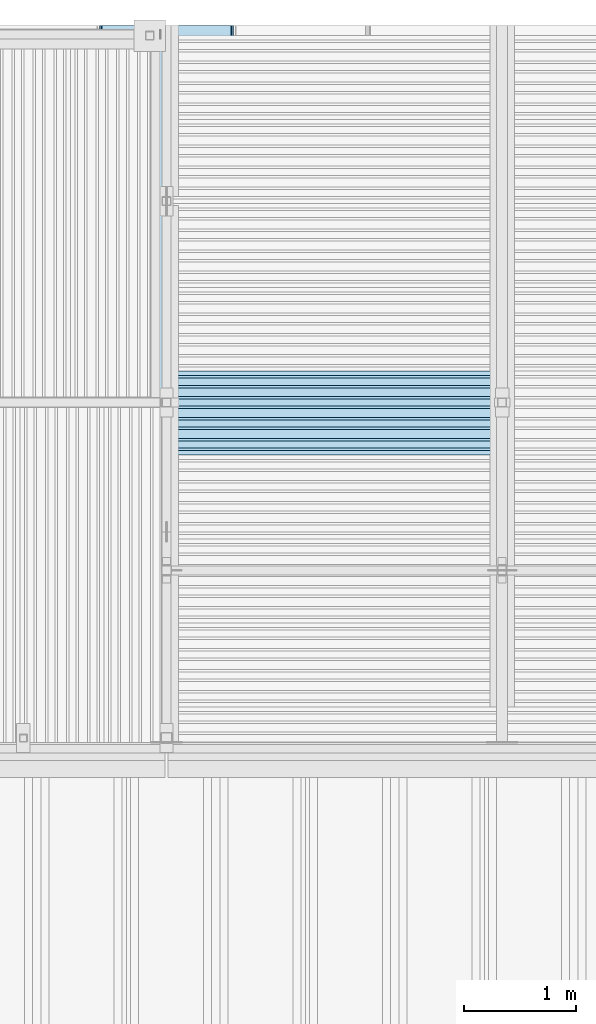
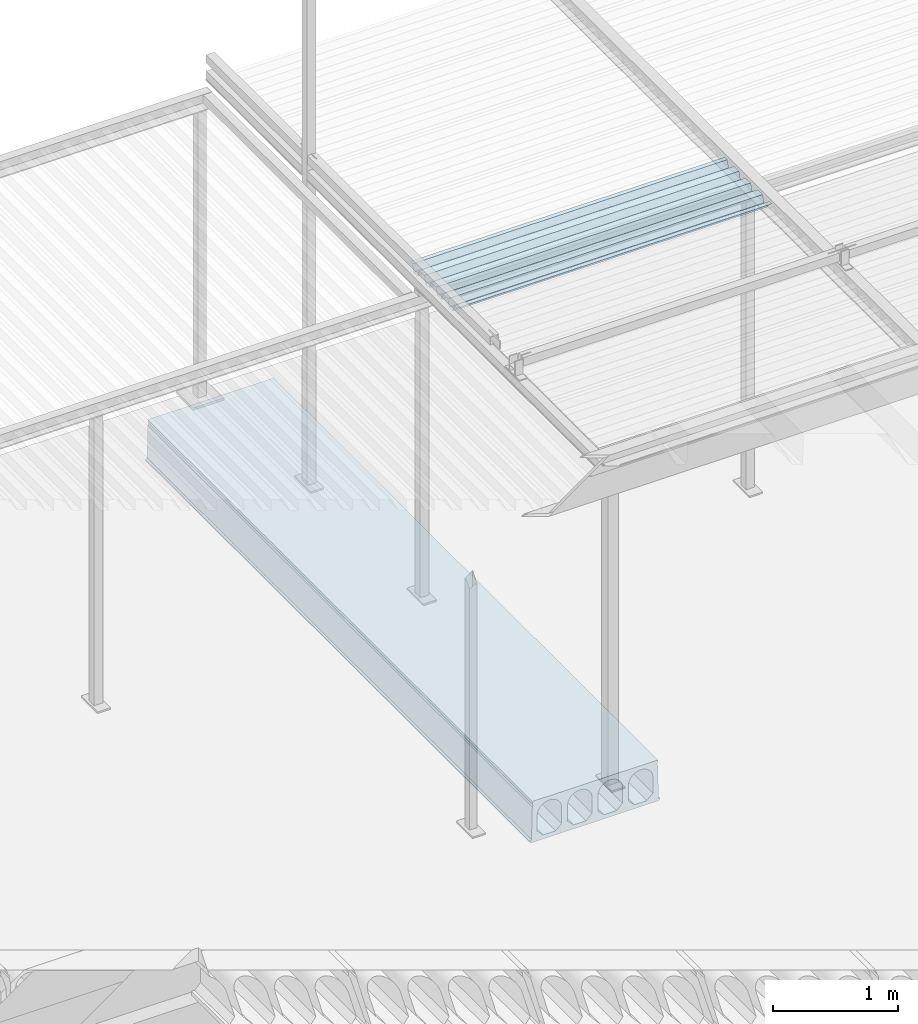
# One storey, part 83 of 98: 2 slabs.
"""IFC2X3 building model written with IfcOpenShell, lengths in millimetres."""

from ifc_helpers import new_model, entity, si_unit, converted_unit, derived_unit, direction, frame, origin_with_axes, place, context, subcontext, project, spatial, faceted_brep, material, type_object, element, save


model = new_model("IFC2X3")

# Units and contexts
model_context = context("Model", 3, precision=0.01, world=frame((0.0, 4.29681676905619e-09, 0.0)), true_north=direction((4.01073788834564e-13, 1.0)))
plan_context = context("Plan", 3, precision=0.01, world=frame((0.0, 4.29681676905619e-09, 0.0)), true_north=direction((4.01073788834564e-13, 1.0)))
body_context = subcontext(model_context, "Body", "Model", "MODEL_VIEW")
ifc_project = project(units=[converted_unit("PLANEANGLEUNIT", "DEGREE", entity("IfcPositiveLengthMeasure", 0.0174532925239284), si_unit("PLANEANGLEUNIT", "RADIAN"), dimensions=[0, 0, 0, 0, 0, 0, 0]), si_unit("AREAUNIT", "SQUARE_METRE"), si_unit("LENGTHUNIT", "METRE", prefix="MILLI"), si_unit("MASSUNIT", "GRAM", prefix="KILO"), si_unit("POWERUNIT", "WATT"), si_unit("PRESSUREUNIT", "PASCAL"), si_unit("FORCEUNIT", "NEWTON", prefix="KILO"), si_unit("ELECTRICCURRENTUNIT", "AMPERE"), si_unit("THERMODYNAMICTEMPERATUREUNIT", "DEGREE_CELSIUS"), si_unit("TIMEUNIT", "SECOND"), si_unit("VOLUMEUNIT", "CUBIC_METRE"), derived_unit("LINEARVELOCITYUNIT", [(si_unit("LENGTHUNIT", "METRE"), 1), (si_unit("TIMEUNIT", "SECOND"), -1)]), derived_unit("VOLUMETRICFLOWRATEUNIT", [(si_unit("VOLUMEUNIT", "CUBIC_METRE"), 1), (si_unit("TIMEUNIT", "SECOND"), -1)]), derived_unit("THERMALTRANSMITTANCEUNIT", [(si_unit("POWERUNIT", "WATT"), 1), (si_unit("THERMODYNAMICTEMPERATUREUNIT", "KELVIN"), -1), (si_unit("AREAUNIT", "SQUARE_METRE"), -1)])], contexts=[model_context, plan_context])

# Site, building, storey
site_placement = place(None, frame((0.0, -4.29681676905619e-09, 0.0), z_axis=(0.0, 0.0, 1.0), x_axis=(1.0, 0.0, 0.0)))
site = spatial("IfcSite", under=ifc_project, at=site_placement, Name="Gardermoen", CompositionType="ELEMENT")
building_placement = place(site_placement, frame((0.0, 4.29681676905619e-09, 0.0), z_axis=(0.0, 0.0, 1.0), x_axis=(1.0, 0.0, 0.0)))
building = spatial("IfcBuilding", under=site, at=building_placement, Name="TS", CompositionType="ELEMENT")
storey_placement = place(building_placement, origin_with_axes())
storey = spatial("IfcBuildingStorey", under=building, at=storey_placement, Name="D", CompositionType="ELEMENT", Elevation=0.0)

# Slabs
slab_type_1 = type_object("IfcSlabType", Name="HD400", PredefinedType="NOTDEFINED")
slab_1_placement = place(storey_placement, frame((519999.999766, 414739.995625, 203600.0), z_axis=(0.0, 0.0, 1.0), x_axis=(0.0, 1.0, 0.0)))
element("IfcSlab", 1, at=slab_1_placement, inside=storey, type_object=slab_type_1, Name="HULLDEKKE", ObjectType="HD400", PredefinedType="FLOOR", context=body_context, shape_type="Brep", body=[
    faceted_brep([(6130.19582840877, 600.0, -190.0), (6130.19582840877, 600.0, -180.0), (0.0, 600.0, -180.0), (0.0, 600.0, -190.0), (6130.19582840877, 585.0, -170.0), (0.0, 585.0, -170.0), (6130.19582840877, 577.5, 145.0), (0.0, 577.5, 145.0), (6130.19582840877, 570.0, 160.0), (0.0, 570.0, 160.0), (6130.19582840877, 577.5, 175.0), (0.0, 577.5, 175.0), (6130.19582840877, 577.5, 200.0), (0.0, 577.5, 200.0), (6130.19582840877, -577.5, 200.0), (0.0, -577.5, 200.0), (6130.19582840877, -577.5, 175.0), (0.0, -577.5, 175.0), (6130.19582840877, -570.0, 160.0), (0.0, -570.0, 160.0), (6130.19582840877, -577.5, 145.0), (0.0, -577.5, 145.0), (6130.19582840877, -585.0, -170.0), (0.0, -585.0, -170.0), (6130.19582840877, -600.0, -180.0), (0.0, -600.0, -180.0), (6130.19582840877, -600.0, -190.0), (0.0, -600.0, -190.0), (6130.19582840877, -583.380004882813, -200.0), (0.0, -583.380004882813, -200.0), (6130.19582840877, 583.380004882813, -200.0), (0.0, 583.380004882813, -200.0), (6130.19582840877, -362.5, -160.0), (6130.19582840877, -477.5, -160.0), (0.0, -477.5, -160.0), (0.0, -362.5, -160.0), (6130.19582840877, -532.5, -105.0), (0.0, -532.5, -105.0), (6130.19582840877, -532.5, 47.5), (0.0, -532.5, 47.5), (6130.19582840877, -532.115755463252, 56.7901763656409), (0.0, -532.115755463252, 56.7901763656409), (6130.19582840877, -530.965646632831, 66.0168914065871), (0.0, -530.965646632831, 66.0168914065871), (6130.19582840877, -529.057529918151, 75.1171173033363), (0.0, -529.057529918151, 75.1171173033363), (6130.19582840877, -526.404439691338, 84.028690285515), (0.0, -526.404439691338, 84.028690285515), (6130.19582840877, -523.024499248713, 92.6907352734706), (0.0, -523.024499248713, 92.6907352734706), (6130.19582840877, -518.940797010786, 101.044081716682), (0.0, -518.940797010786, 101.044081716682), (6130.19582840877, -514.181228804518, 109.031667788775), (0.0, -514.181228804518, 109.031667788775), (6130.19582840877, -508.778307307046, 116.598930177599), (0.0, -508.778307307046, 116.598930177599), (6130.19582840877, -502.768939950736, 123.694176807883), (0.0, -502.768939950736, 123.694176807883), (6130.19582840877, -496.194176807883, 130.268939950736), (0.0, -496.194176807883, 130.268939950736), (6130.19582840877, -489.098930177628, 136.278307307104), (0.0, -489.098930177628, 136.278307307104), (6130.19582840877, -481.531667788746, 141.681228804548), (0.0, -481.531667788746, 141.681228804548), (6130.19582840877, -473.544081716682, 146.440797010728), (0.0, -473.544081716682, 146.440797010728), (6130.19582840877, -465.190735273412, 150.524499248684), (0.0, -465.190735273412, 150.524499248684), (6130.19582840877, -456.528690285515, 153.904439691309), (0.0, -456.528690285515, 153.904439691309), (6130.19582840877, -447.617117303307, 156.55752991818), (0.0, -447.617117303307, 156.55752991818), (6130.19582840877, -438.516891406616, 158.465646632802), (0.0, -438.516891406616, 158.465646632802), (6130.19582840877, -429.290176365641, 159.615755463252), (0.0, -429.290176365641, 159.615755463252), (6130.19582840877, -420.0, 160.0), (0.0, -420.0, 160.0), (6130.19582840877, -410.709823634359, 159.615755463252), (0.0, -410.709823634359, 159.615755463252), (6130.19582840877, -401.483108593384, 158.465646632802), (0.0, -401.483108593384, 158.465646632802), (6130.19582840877, -392.382882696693, 156.55752991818), (0.0, -392.382882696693, 156.55752991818), (6130.19582840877, -383.471309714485, 153.904439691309), (0.0, -383.471309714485, 153.904439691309), (6130.19582840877, -374.809264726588, 150.524499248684), (0.0, -374.809264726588, 150.524499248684), (6130.19582840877, -366.455918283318, 146.440797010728), (0.0, -366.455918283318, 146.440797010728), (6130.19582840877, -358.468332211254, 141.681228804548), (0.0, -358.468332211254, 141.681228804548), (6130.19582840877, -350.901069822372, 136.278307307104), (0.0, -350.901069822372, 136.278307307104), (6130.19582840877, -343.805823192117, 130.268939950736), (0.0, -343.805823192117, 130.268939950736), (6130.19582840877, -337.231060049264, 123.694176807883), (0.0, -337.231060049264, 123.694176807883), (6130.19582840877, -331.221692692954, 116.598930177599), (0.0, -331.221692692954, 116.598930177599), (6130.19582840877, -325.818771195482, 109.031667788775), (0.0, -325.818771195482, 109.031667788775), (6130.19582840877, -321.059202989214, 101.044081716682), (0.0, -321.059202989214, 101.044081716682), (6130.19582840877, -316.975500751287, 92.6907352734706), (0.0, -316.975500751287, 92.6907352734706), (6130.19582840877, -313.595560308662, 84.028690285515), (0.0, -313.595560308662, 84.028690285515), (6130.19582840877, -310.942470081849, 75.1171173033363), (0.0, -310.942470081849, 75.1171173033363), (6130.19582840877, -309.034353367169, 66.0168914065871), (0.0, -309.034353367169, 66.0168914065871), (6130.19582840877, -307.884244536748, 56.7901763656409), (0.0, -307.884244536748, 56.7901763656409), (6130.19582840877, -307.5, 47.5), (0.0, -307.5, 47.5), (6130.19582840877, -307.5, -105.0), (0.0, -307.5, -105.0), (6130.19582840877, -82.5, -160.0), (6130.19582840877, -197.5, -160.0), (0.0, -197.5, -160.0), (0.0, -82.5, -160.0), (6130.19582840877, -252.5, -105.0), (0.0, -252.5, -105.0), (6130.19582840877, -252.5, 47.5), (0.0, -252.5, 47.5), (6130.19582840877, -252.115755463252, 56.7901763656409), (0.0, -252.115755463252, 56.7901763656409), (6130.19582840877, -250.965646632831, 66.0168914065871), (0.0, -250.965646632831, 66.0168914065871), (6130.19582840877, -249.057529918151, 75.1171173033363), (0.0, -249.057529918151, 75.1171173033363), (6130.19582840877, -246.404439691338, 84.028690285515), (0.0, -246.404439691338, 84.028690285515), (6130.19582840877, -243.024499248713, 92.6907352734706), (0.0, -243.024499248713, 92.6907352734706), (6130.19582840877, -238.940797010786, 101.044081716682), (0.0, -238.940797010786, 101.044081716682), (6130.19582840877, -234.181228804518, 109.031667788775), (0.0, -234.181228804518, 109.031667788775), (6130.19582840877, -228.778307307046, 116.598930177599), (0.0, -228.778307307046, 116.598930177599), (6130.19582840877, -222.768939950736, 123.694176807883), (0.0, -222.768939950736, 123.694176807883), (6130.19582840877, -216.194176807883, 130.268939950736), (0.0, -216.194176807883, 130.268939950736), (6130.19582840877, -209.098930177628, 136.278307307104), (0.0, -209.098930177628, 136.278307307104), (6130.19582840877, -201.531667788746, 141.681228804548), (0.0, -201.531667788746, 141.681228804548), (6130.19582840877, -193.544081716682, 146.440797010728), (0.0, -193.544081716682, 146.440797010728), (6130.19582840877, -185.190735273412, 150.524499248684), (0.0, -185.190735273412, 150.524499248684), (6130.19582840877, -176.528690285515, 153.904439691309), (0.0, -176.528690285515, 153.904439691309), (6130.19582840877, -167.617117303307, 156.55752991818), (0.0, -167.617117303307, 156.55752991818), (6130.19582840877, -158.516891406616, 158.465646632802), (0.0, -158.516891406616, 158.465646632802), (6130.19582840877, -149.290176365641, 159.615755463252), (0.0, -149.290176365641, 159.615755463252), (6130.19582840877, -140.0, 160.0), (0.0, -140.0, 160.0), (6130.19582840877, -130.709823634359, 159.615755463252), (0.0, -130.709823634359, 159.615755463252), (6130.19582840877, -121.483108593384, 158.465646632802), (0.0, -121.483108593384, 158.465646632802), (6130.19582840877, -112.382882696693, 156.55752991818), (0.0, -112.382882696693, 156.55752991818), (6130.19582840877, -103.471309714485, 153.904439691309), (0.0, -103.471309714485, 153.904439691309), (6130.19582840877, -94.8092647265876, 150.524499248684), (0.0, -94.8092647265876, 150.524499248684), (6130.19582840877, -86.4559182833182, 146.440797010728), (0.0, -86.4559182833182, 146.440797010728), (6130.19582840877, -78.4683322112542, 141.681228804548), (0.0, -78.4683322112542, 141.681228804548), (6130.19582840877, -70.9010698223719, 136.278307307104), (0.0, -70.9010698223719, 136.278307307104), (6130.19582840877, -63.8058231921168, 130.268939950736), (0.0, -63.8058231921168, 130.268939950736), (6130.19582840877, -57.2310600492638, 123.694176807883), (0.0, -57.2310600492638, 123.694176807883), (6130.19582840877, -51.2216926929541, 116.598930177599), (0.0, -51.2216926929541, 116.598930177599), (6130.19582840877, -45.8187711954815, 109.031667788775), (0.0, -45.8187711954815, 109.031667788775), (6130.19582840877, -41.0592029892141, 101.044081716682), (0.0, -41.0592029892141, 101.044081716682), (6130.19582840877, -36.9755007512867, 92.6907352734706), (0.0, -36.9755007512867, 92.6907352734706), (6130.19582840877, -33.5955603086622, 84.028690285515), (0.0, -33.5955603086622, 84.028690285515), (6130.19582840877, -30.942470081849, 75.1171173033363), (0.0, -30.942470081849, 75.1171173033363), (6130.19582840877, -29.0343533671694, 66.0168914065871), (0.0, -29.0343533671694, 66.0168914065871), (6130.19582840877, -27.8842445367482, 56.7901763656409), (0.0, -27.8842445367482, 56.7901763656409), (6130.19582840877, -27.5, 47.5), (0.0, -27.5, 47.5), (6130.19582840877, -27.5, -105.0), (0.0, -27.5, -105.0), (6130.19582840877, 197.5, -160.0), (6130.19582840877, 82.5, -160.0), (0.0, 82.5, -160.0), (0.0, 197.5, -160.0), (6130.19582840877, 27.5, -105.0), (0.0, 27.5, -105.0), (6130.19582840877, 27.5, 47.5), (0.0, 27.5, 47.5), (6130.19582840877, 27.8842445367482, 56.7901763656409), (0.0, 27.8842445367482, 56.7901763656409), (6130.19582840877, 29.0343533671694, 66.0168914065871), (0.0, 29.0343533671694, 66.0168914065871), (6130.19582840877, 30.942470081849, 75.1171173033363), (0.0, 30.942470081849, 75.1171173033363), (6130.19582840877, 33.5955603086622, 84.028690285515), (0.0, 33.5955603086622, 84.028690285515), (6130.19582840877, 36.9755007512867, 92.6907352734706), (0.0, 36.9755007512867, 92.6907352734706), (6130.19582840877, 41.0592029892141, 101.044081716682), (0.0, 41.0592029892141, 101.044081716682), (6130.19582840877, 45.8187711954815, 109.031667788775), (0.0, 45.8187711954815, 109.031667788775), (6130.19582840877, 51.2216926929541, 116.598930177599), (0.0, 51.2216926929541, 116.598930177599), (6130.19582840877, 57.2310600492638, 123.694176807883), (0.0, 57.2310600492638, 123.694176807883), (6130.19582840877, 63.8058231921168, 130.268939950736), (0.0, 63.8058231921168, 130.268939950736), (6130.19582840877, 70.9010698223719, 136.278307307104), (0.0, 70.9010698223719, 136.278307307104), (6130.19582840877, 78.4683322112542, 141.681228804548), (0.0, 78.4683322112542, 141.681228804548), (6130.19582840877, 86.4559182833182, 146.440797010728), (0.0, 86.4559182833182, 146.440797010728), (6130.19582840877, 94.8092647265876, 150.524499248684), (0.0, 94.8092647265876, 150.524499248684), (6130.19582840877, 103.471309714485, 153.904439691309), (0.0, 103.471309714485, 153.904439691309), (6130.19582840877, 112.382882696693, 156.55752991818), (0.0, 112.382882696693, 156.55752991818), (6130.19582840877, 121.483108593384, 158.465646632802), (0.0, 121.483108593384, 158.465646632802), (6130.19582840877, 130.709823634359, 159.615755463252), (0.0, 130.709823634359, 159.615755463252), (6130.19582840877, 140.0, 160.0), (0.0, 140.0, 160.0), (6130.19582840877, 149.290176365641, 159.615755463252), (0.0, 149.290176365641, 159.615755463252), (6130.19582840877, 158.516891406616, 158.465646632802), (0.0, 158.516891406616, 158.465646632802), (6130.19582840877, 167.617117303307, 156.55752991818), (0.0, 167.617117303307, 156.55752991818), (6130.19582840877, 176.528690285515, 153.904439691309), (0.0, 176.528690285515, 153.904439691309), (6130.19582840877, 185.190735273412, 150.524499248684), (0.0, 185.190735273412, 150.524499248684), (6130.19582840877, 193.544081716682, 146.440797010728), (0.0, 193.544081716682, 146.440797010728), (6130.19582840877, 201.531667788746, 141.681228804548), (0.0, 201.531667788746, 141.681228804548), (6130.19582840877, 209.098930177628, 136.278307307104), (0.0, 209.098930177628, 136.278307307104), (6130.19582840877, 216.194176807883, 130.268939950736), (0.0, 216.194176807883, 130.268939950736), (6130.19582840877, 222.768939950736, 123.694176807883), (0.0, 222.768939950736, 123.694176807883), (6130.19582840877, 228.778307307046, 116.598930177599), (0.0, 228.778307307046, 116.598930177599), (6130.19582840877, 234.181228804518, 109.031667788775), (0.0, 234.181228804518, 109.031667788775), (6130.19582840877, 238.940797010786, 101.044081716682), (0.0, 238.940797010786, 101.044081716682), (6130.19582840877, 243.024499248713, 92.6907352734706), (0.0, 243.024499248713, 92.6907352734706), (6130.19582840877, 246.404439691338, 84.028690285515), (0.0, 246.404439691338, 84.028690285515), (6130.19582840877, 249.057529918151, 75.1171173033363), (0.0, 249.057529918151, 75.1171173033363), (6130.19582840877, 250.965646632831, 66.0168914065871), (0.0, 250.965646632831, 66.0168914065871), (6130.19582840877, 252.115755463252, 56.7901763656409), (0.0, 252.115755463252, 56.7901763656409), (6130.19582840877, 252.5, 47.5), (0.0, 252.5, 47.5), (6130.19582840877, 252.5, -105.0), (0.0, 252.5, -105.0), (6130.19582840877, 477.5, -160.0), (6130.19582840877, 362.5, -160.0), (0.0, 362.5, -160.0), (0.0, 477.5, -160.0), (6130.19582840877, 307.5, -105.0), (0.0, 307.5, -105.0), (6130.19582840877, 307.5, 47.5), (0.0, 307.5, 47.5), (6130.19582840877, 307.884244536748, 56.7901763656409), (0.0, 307.884244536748, 56.7901763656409), (6130.19582840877, 309.034353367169, 66.0168914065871), (0.0, 309.034353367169, 66.0168914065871), (6130.19582840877, 310.942470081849, 75.1171173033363), (0.0, 310.942470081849, 75.1171173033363), (6130.19582840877, 313.595560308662, 84.028690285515), (0.0, 313.595560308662, 84.028690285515), (6130.19582840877, 316.975500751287, 92.6907352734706), (0.0, 316.975500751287, 92.6907352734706), (6130.19582840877, 321.059202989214, 101.044081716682), (0.0, 321.059202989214, 101.044081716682), (6130.19582840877, 325.818771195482, 109.031667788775), (0.0, 325.818771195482, 109.031667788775), (6130.19582840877, 331.221692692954, 116.598930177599), (0.0, 331.221692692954, 116.598930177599), (6130.19582840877, 337.231060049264, 123.694176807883), (0.0, 337.231060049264, 123.694176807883), (6130.19582840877, 343.805823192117, 130.268939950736), (0.0, 343.805823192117, 130.268939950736), (6130.19582840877, 350.901069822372, 136.278307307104), (0.0, 350.901069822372, 136.278307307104), (6130.19582840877, 358.468332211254, 141.681228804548), (0.0, 358.468332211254, 141.681228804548), (6130.19582840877, 366.455918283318, 146.440797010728), (0.0, 366.455918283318, 146.440797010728), (6130.19582840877, 374.809264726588, 150.524499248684), (0.0, 374.809264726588, 150.524499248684), (6130.19582840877, 383.471309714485, 153.904439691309), (0.0, 383.471309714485, 153.904439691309), (6130.19582840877, 392.382882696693, 156.55752991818), (0.0, 392.382882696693, 156.55752991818), (6130.19582840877, 401.483108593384, 158.465646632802), (0.0, 401.483108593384, 158.465646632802), (6130.19582840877, 410.709823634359, 159.615755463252), (0.0, 410.709823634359, 159.615755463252), (6130.19582840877, 420.0, 160.0), (0.0, 420.0, 160.0), (6130.19582840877, 429.290176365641, 159.615755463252), (0.0, 429.290176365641, 159.615755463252), (6130.19582840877, 438.516891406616, 158.465646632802), (0.0, 438.516891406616, 158.465646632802), (6130.19582840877, 447.617117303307, 156.55752991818), (0.0, 447.617117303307, 156.55752991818), (6130.19582840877, 456.528690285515, 153.904439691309), (0.0, 456.528690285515, 153.904439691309), (6130.19582840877, 465.190735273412, 150.524499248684), (0.0, 465.190735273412, 150.524499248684), (6130.19582840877, 473.544081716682, 146.440797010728), (0.0, 473.544081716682, 146.440797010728), (6130.19582840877, 481.531667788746, 141.681228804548), (0.0, 481.531667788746, 141.681228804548), (6130.19582840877, 489.098930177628, 136.278307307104), (0.0, 489.098930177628, 136.278307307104), (6130.19582840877, 496.194176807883, 130.268939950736), (0.0, 496.194176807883, 130.268939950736), (6130.19582840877, 502.768939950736, 123.694176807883), (0.0, 502.768939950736, 123.694176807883), (6130.19582840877, 508.778307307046, 116.598930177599), (0.0, 508.778307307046, 116.598930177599), (6130.19582840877, 514.181228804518, 109.031667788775), (0.0, 514.181228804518, 109.031667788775), (6130.19582840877, 518.940797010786, 101.044081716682), (0.0, 518.940797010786, 101.044081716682), (6130.19582840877, 523.024499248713, 92.6907352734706), (0.0, 523.024499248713, 92.6907352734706), (6130.19582840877, 526.404439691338, 84.028690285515), (0.0, 526.404439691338, 84.028690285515), (6130.19582840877, 529.057529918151, 75.1171173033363), (0.0, 529.057529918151, 75.1171173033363), (6130.19582840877, 530.965646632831, 66.0168914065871), (0.0, 530.965646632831, 66.0168914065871), (6130.19582840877, 532.115755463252, 56.7901763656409), (0.0, 532.115755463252, 56.7901763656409), (6130.19582840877, 532.5, 47.5), (0.0, 532.5, 47.5), (6130.19582840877, 532.5, -105.0), (0.0, 532.5, -105.0)], [[[0, 1, 2, 3]], [[1, 4, 5, 2]], [[4, 6, 7, 5]], [[6, 8, 9, 7]], [[8, 10, 11, 9]], [[10, 12, 13, 11]], [[12, 14, 15, 13]], [[14, 16, 17, 15]], [[16, 18, 19, 17]], [[18, 20, 21, 19]], [[20, 22, 23, 21]], [[22, 24, 25, 23]], [[24, 26, 27, 25]], [[26, 28, 29, 27]], [[28, 30, 31, 29]], [[30, 0, 3, 31]], [[32, 33, 34, 35]], [[33, 36, 37, 34]], [[36, 38, 39, 37]], [[38, 40, 41, 39]], [[40, 42, 43, 41]], [[42, 44, 45, 43]], [[44, 46, 47, 45]], [[46, 48, 49, 47]], [[48, 50, 51, 49]], [[50, 52, 53, 51]], [[52, 54, 55, 53]], [[54, 56, 57, 55]], [[56, 58, 59, 57]], [[58, 60, 61, 59]], [[60, 62, 63, 61]], [[62, 64, 65, 63]], [[64, 66, 67, 65]], [[66, 68, 69, 67]], [[68, 70, 71, 69]], [[70, 72, 73, 71]], [[72, 74, 75, 73]], [[74, 76, 77, 75]], [[76, 78, 79, 77]], [[78, 80, 81, 79]], [[80, 82, 83, 81]], [[82, 84, 85, 83]], [[84, 86, 87, 85]], [[86, 88, 89, 87]], [[88, 90, 91, 89]], [[90, 92, 93, 91]], [[92, 94, 95, 93]], [[94, 96, 97, 95]], [[96, 98, 99, 97]], [[98, 100, 101, 99]], [[100, 102, 103, 101]], [[102, 104, 105, 103]], [[104, 106, 107, 105]], [[106, 108, 109, 107]], [[108, 110, 111, 109]], [[110, 112, 113, 111]], [[112, 114, 115, 113]], [[114, 116, 117, 115]], [[116, 32, 35, 117]], [[118, 119, 120, 121]], [[119, 122, 123, 120]], [[122, 124, 125, 123]], [[124, 126, 127, 125]], [[126, 128, 129, 127]], [[128, 130, 131, 129]], [[130, 132, 133, 131]], [[132, 134, 135, 133]], [[134, 136, 137, 135]], [[136, 138, 139, 137]], [[138, 140, 141, 139]], [[140, 142, 143, 141]], [[142, 144, 145, 143]], [[144, 146, 147, 145]], [[146, 148, 149, 147]], [[148, 150, 151, 149]], [[150, 152, 153, 151]], [[152, 154, 155, 153]], [[154, 156, 157, 155]], [[156, 158, 159, 157]], [[158, 160, 161, 159]], [[160, 162, 163, 161]], [[162, 164, 165, 163]], [[164, 166, 167, 165]], [[166, 168, 169, 167]], [[168, 170, 171, 169]], [[170, 172, 173, 171]], [[172, 174, 175, 173]], [[174, 176, 177, 175]], [[176, 178, 179, 177]], [[178, 180, 181, 179]], [[180, 182, 183, 181]], [[182, 184, 185, 183]], [[184, 186, 187, 185]], [[186, 188, 189, 187]], [[188, 190, 191, 189]], [[190, 192, 193, 191]], [[192, 194, 195, 193]], [[194, 196, 197, 195]], [[196, 198, 199, 197]], [[198, 200, 201, 199]], [[200, 202, 203, 201]], [[202, 118, 121, 203]], [[204, 205, 206, 207]], [[205, 208, 209, 206]], [[208, 210, 211, 209]], [[210, 212, 213, 211]], [[212, 214, 215, 213]], [[214, 216, 217, 215]], [[216, 218, 219, 217]], [[218, 220, 221, 219]], [[220, 222, 223, 221]], [[222, 224, 225, 223]], [[224, 226, 227, 225]], [[226, 228, 229, 227]], [[228, 230, 231, 229]], [[230, 232, 233, 231]], [[232, 234, 235, 233]], [[234, 236, 237, 235]], [[236, 238, 239, 237]], [[238, 240, 241, 239]], [[240, 242, 243, 241]], [[242, 244, 245, 243]], [[244, 246, 247, 245]], [[246, 248, 249, 247]], [[248, 250, 251, 249]], [[250, 252, 253, 251]], [[252, 254, 255, 253]], [[254, 256, 257, 255]], [[256, 258, 259, 257]], [[258, 260, 261, 259]], [[260, 262, 263, 261]], [[262, 264, 265, 263]], [[264, 266, 267, 265]], [[266, 268, 269, 267]], [[268, 270, 271, 269]], [[270, 272, 273, 271]], [[272, 274, 275, 273]], [[274, 276, 277, 275]], [[276, 278, 279, 277]], [[278, 280, 281, 279]], [[280, 282, 283, 281]], [[282, 284, 285, 283]], [[284, 286, 287, 285]], [[286, 288, 289, 287]], [[288, 204, 207, 289]], [[290, 291, 292, 293]], [[291, 294, 295, 292]], [[294, 296, 297, 295]], [[296, 298, 299, 297]], [[298, 300, 301, 299]], [[300, 302, 303, 301]], [[302, 304, 305, 303]], [[304, 306, 307, 305]], [[306, 308, 309, 307]], [[308, 310, 311, 309]], [[310, 312, 313, 311]], [[312, 314, 315, 313]], [[314, 316, 317, 315]], [[316, 318, 319, 317]], [[318, 320, 321, 319]], [[320, 322, 323, 321]], [[322, 324, 325, 323]], [[324, 326, 327, 325]], [[326, 328, 329, 327]], [[328, 330, 331, 329]], [[330, 332, 333, 331]], [[332, 334, 335, 333]], [[334, 336, 337, 335]], [[336, 338, 339, 337]], [[338, 340, 341, 339]], [[340, 342, 343, 341]], [[342, 344, 345, 343]], [[344, 346, 347, 345]], [[346, 348, 349, 347]], [[348, 350, 351, 349]], [[350, 352, 353, 351]], [[352, 354, 355, 353]], [[354, 356, 357, 355]], [[356, 358, 359, 357]], [[358, 360, 361, 359]], [[360, 362, 363, 361]], [[362, 364, 365, 363]], [[364, 366, 367, 365]], [[366, 368, 369, 367]], [[368, 370, 371, 369]], [[370, 372, 373, 371]], [[372, 374, 375, 373]], [[374, 290, 293, 375]], [[3, 2, 5, 7, 9, 11, 13, 15, 17, 19, 21, 23, 25, 27, 29, 31], [293, 292, 295, 297, 299, 301, 303, 305, 307, 309, 311, 313, 315, 317, 319, 321, 323, 325, 327, 329, 331, 333, 335, 337, 339, 341, 343, 345, 347, 349, 351, 353, 355, 357, 359, 361, 363, 365, 367, 369, 371, 373, 375], [207, 206, 209, 211, 213, 215, 217, 219, 221, 223, 225, 227, 229, 231, 233, 235, 237, 239, 241, 243, 245, 247, 249, 251, 253, 255, 257, 259, 261, 263, 265, 267, 269, 271, 273, 275, 277, 279, 281, 283, 285, 287, 289], [121, 120, 123, 125, 127, 129, 131, 133, 135, 137, 139, 141, 143, 145, 147, 149, 151, 153, 155, 157, 159, 161, 163, 165, 167, 169, 171, 173, 175, 177, 179, 181, 183, 185, 187, 189, 191, 193, 195, 197, 199, 201, 203], [35, 34, 37, 39, 41, 43, 45, 47, 49, 51, 53, 55, 57, 59, 61, 63, 65, 67, 69, 71, 73, 75, 77, 79, 81, 83, 85, 87, 89, 91, 93, 95, 97, 99, 101, 103, 105, 107, 109, 111, 113, 115, 117]], [[30, 28, 26, 24, 22, 20, 18, 16, 14, 12, 10, 8, 6, 4, 1, 0], [116, 114, 112, 110, 108, 106, 104, 102, 100, 98, 96, 94, 92, 90, 88, 86, 84, 82, 80, 78, 76, 74, 72, 70, 68, 66, 64, 62, 60, 58, 56, 54, 52, 50, 48, 46, 44, 42, 40, 38, 36, 33, 32], [202, 200, 198, 196, 194, 192, 190, 188, 186, 184, 182, 180, 178, 176, 174, 172, 170, 168, 166, 164, 162, 160, 158, 156, 154, 152, 150, 148, 146, 144, 142, 140, 138, 136, 134, 132, 130, 128, 126, 124, 122, 119, 118], [288, 286, 284, 282, 280, 278, 276, 274, 272, 270, 268, 266, 264, 262, 260, 258, 256, 254, 252, 250, 248, 246, 244, 242, 240, 238, 236, 234, 232, 230, 228, 226, 224, 222, 220, 218, 216, 214, 212, 210, 208, 205, 204], [374, 372, 370, 368, 366, 364, 362, 360, 358, 356, 354, 352, 350, 348, 346, 344, 342, 340, 338, 336, 334, 332, 330, 328, 326, 324, 322, 320, 318, 316, 314, 312, 310, 308, 306, 304, 302, 300, 298, 296, 294, 291, 290]]], orient=[[False], [False], [False], [False], [False], [False], [False], [False], [False], [False], [False], [False], [False], [False], [False], [False], [False], [False], [False], [False], [False], [False], [False], [False], [False], [False], [False], [False], [False], [False], [False], [False], [False], [False], [False], [False], [False], [False], [False], [False], [False], [False], [False], [False], [False], [False], [False], [False], [False], [False], [False], [False], [False], [False], [False], [False], [False], [False], [False], [False], [False], [False], [False], [False], [False], [False], [False], [False], [False], [False], [False], [False], [False], [False], [False], [False], [False], [False], [False], [False], [False], [False], [False], [False], [False], [False], [False], [False], [False], [False], [False], [False], [False], [False], [False], [False], [False], [False], [False], [False], [False], [False], [False], [False], [False], [False], [False], [False], [False], [False], [False], [False], [False], [False], [False], [False], [False], [False], [False], [False], [False], [False], [False], [False], [False], [False], [False], [False], [False], [False], [False], [False], [False], [False], [False], [False], [False], [False], [False], [False], [False], [False], [False], [False], [False], [False], [False], [False], [False], [False], [False], [False], [False], [False], [False], [False], [False], [False], [False], [False], [False], [False], [False], [False], [False], [False], [False], [False], [False], [False], [False], [False], [False], [False], [False], [False], [False], [False], [False], [False], [False], [False], [False], [False], [False], [False], [False], [False], [False, False, False, False, False], [False, False, False, False, False]]),
])
ifc_material = material(Name="STEEL/S355")
slab_type_2 = type_object("IfcSlabType", Name="PLANJA70", PredefinedType="NOTDEFINED")
slab_2_placement = place(storey_placement, frame((522950.000000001, 417404.996695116, 206958.849718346), z_axis=(0.0, 0.0, 1.0), x_axis=(-0.999999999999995, -9.99999902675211e-08, 0.0)))
element("IfcSlab", 2, at=slab_2_placement, inside=storey, type_object=slab_type_2, material=ifc_material, Name="STÅLTAK", ObjectType="PLANJA70", PredefinedType="FLOOR", context=body_context, shape_type="Brep", body=[
    faceted_brep([(0.0, 375.0, 34.1500015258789), (0.0, 335.299987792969, 34.1500015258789), (2900.00079747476, 335.299987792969, 34.1500015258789), (2900.00079747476, 375.0, 34.1500015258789), (0.0, 313.010681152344, -32.1500015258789), (2900.00079747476, 313.010681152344, -32.1500015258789), (0.0, 249.489303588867, -32.1500015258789), (2900.00079747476, 249.489303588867, -32.1500015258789), (0.0, 227.199996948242, 34.1500015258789), (2900.00079747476, 227.199996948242, 34.1500015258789), (0.0, 147.800003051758, 34.1500015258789), (2900.00079747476, 147.800003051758, 34.1500015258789), (0.0, 125.280120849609, -33.1500015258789), (2900.00079747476, 125.280120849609, -33.1500015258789), (0.0, 62.2198791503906, -33.1500015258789), (2900.00079747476, 62.2198791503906, -33.1500015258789), (0.0, 39.7000007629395, 34.1500015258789), (2900.00079747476, 39.7000007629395, 34.1500015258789), (0.0, -39.7000007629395, 34.1500015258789), (2900.00079747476, -39.7000007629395, 34.1500015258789), (0.0, -62.2198791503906, -33.1500015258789), (2900.00079747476, -62.2198791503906, -33.1500015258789), (0.0, -125.280120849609, -33.1500015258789), (2900.00079747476, -125.280120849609, -33.1500015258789), (0.0, -147.800003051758, 34.1500015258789), (2900.00079747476, -147.800003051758, 34.1500015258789), (0.0, -227.199996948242, 34.1500015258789), (2900.00079747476, -227.199996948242, 34.1500015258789), (0.0, -249.719879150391, -33.1500015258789), (2900.00079747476, -249.719879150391, -33.1500015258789), (0.0, -312.781188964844, -33.1500015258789), (2900.00079747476, -312.781188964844, -33.1500015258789), (0.0, -335.070495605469, 33.1500015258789), (2900.00079747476, -335.070495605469, 33.1500015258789), (0.0, -375.0, 33.1500015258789), (2900.00079747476, -375.0, 33.1500015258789), (0.0, -375.0, 32.1500015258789), (2900.00079747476, -375.0, 32.1500015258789), (0.0, -335.789306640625, 32.1500015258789), (2900.00079747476, -335.789306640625, 32.1500015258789), (0.0, -313.5, -34.1500015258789), (2900.00079747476, -313.5, -34.1500015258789), (0.0, -249.0, -34.1500015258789), (2900.00079747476, -249.0, -34.1500015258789), (0.0, -226.480117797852, 33.1500015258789), (2900.00079747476, -226.480117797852, 33.1500015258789), (0.0, -148.519882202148, 33.1500015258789), (2900.00079747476, -148.519882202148, 33.1500015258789), (0.0, -126.0, -34.1500015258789), (2900.00079747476, -126.0, -34.1500015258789), (0.0, -61.5, -34.1500015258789), (2900.00079747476, -61.5, -34.1500015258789), (0.0, -38.9801177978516, 33.1500015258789), (2900.00079747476, -38.9801177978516, 33.1500015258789), (0.0, 38.9801177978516, 33.1500015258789), (2900.00079747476, 38.9801177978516, 33.1500015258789), (0.0, 61.5, -34.1500015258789), (2900.00079747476, 61.5, -34.1500015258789), (0.0, 126.0, -34.1500015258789), (2900.00079747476, 126.0, -34.1500015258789), (0.0, 148.519882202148, 33.1500015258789), (2900.00079747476, 148.519882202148, 33.1500015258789), (0.0, 226.481185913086, 33.1500015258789), (2900.00079747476, 226.481185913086, 33.1500015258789), (0.0, 248.770492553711, -33.1500015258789), (2900.00079747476, 248.770492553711, -33.1500015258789), (0.0, 313.7294921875, -33.1500015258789), (2900.00079747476, 313.7294921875, -33.1500015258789), (0.0, 336.018798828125, 33.1500015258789), (2900.00079747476, 336.018798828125, 33.1500015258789), (0.0, 375.0, 33.1500015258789), (2900.00079747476, 375.0, 33.1500015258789)], [[[0, 1, 2, 3]], [[1, 4, 5, 2]], [[4, 6, 7, 5]], [[6, 8, 9, 7]], [[8, 10, 11, 9]], [[10, 12, 13, 11]], [[12, 14, 15, 13]], [[14, 16, 17, 15]], [[16, 18, 19, 17]], [[18, 20, 21, 19]], [[22, 23, 21, 20]], [[22, 24, 25, 23]], [[24, 26, 27, 25]], [[26, 28, 29, 27]], [[28, 30, 31, 29]], [[30, 32, 33, 31]], [[32, 34, 35, 33]], [[34, 36, 37, 35]], [[36, 38, 39, 37]], [[38, 40, 41, 39]], [[40, 42, 43, 41]], [[42, 44, 45, 43]], [[44, 46, 47, 45]], [[46, 48, 49, 47]], [[48, 50, 51, 49]], [[50, 52, 53, 51]], [[52, 54, 55, 53]], [[54, 56, 57, 55]], [[56, 58, 59, 57]], [[58, 60, 61, 59]], [[60, 62, 63, 61]], [[62, 64, 65, 63]], [[64, 66, 67, 65]], [[66, 68, 69, 67]], [[68, 70, 71, 69]], [[70, 0, 3, 71]], [[5, 7, 9, 11, 13, 15, 17, 19, 21, 23, 25, 27, 29, 31, 33, 35, 37, 39, 41, 43, 45, 47, 49, 51, 53, 55, 57, 59, 61, 63, 65, 67, 69, 71, 3, 2]], [[70, 68, 66, 64, 62, 60, 58, 56, 54, 52, 50, 48, 46, 44, 42, 40, 38, 36, 34, 32, 30, 28, 26, 24, 22, 20, 18, 16, 14, 12, 10, 8, 6, 4, 1, 0]]]),
])

save(model, "model.ifc")
